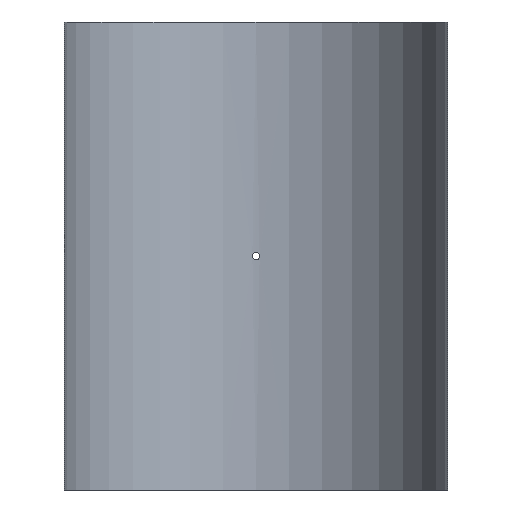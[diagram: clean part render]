
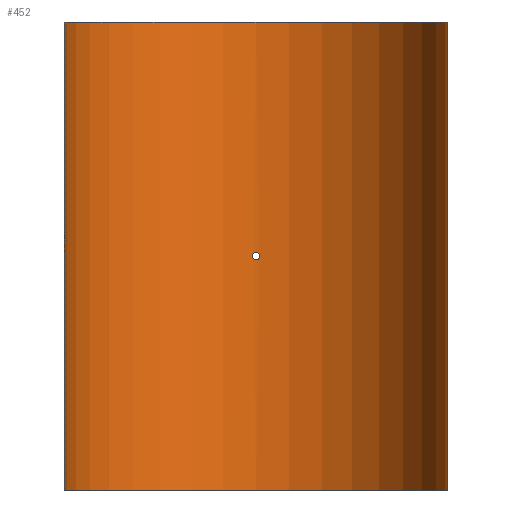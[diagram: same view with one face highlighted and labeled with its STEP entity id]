
A CAD part, front view. The second image highlights one B-rep face of the part: STEP entity #452.
In plain terms, the highlighted cylindrical face has radius 250 mm (diameter 500 mm), a partial arc.
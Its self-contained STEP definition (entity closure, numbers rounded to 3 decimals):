
#19=B_SPLINE_CURVE_WITH_KNOTS('',3,(#796,#797,#798,#799,#800,#801,#802,
#803,#804,#805,#806,#807,#808,#809,#810,#811,#812,#813,#814,#815,#816,#817,
#818,#819,#820,#821,#822,#823,#824,#825,#826,#827,#828,#829),
 .UNSPECIFIED.,.T.,.F.,(4,2,2,2,2,2,2,2,2,2,2,2,2,2,2,2,4),(0.,0.181,
0.362,0.542,0.723,0.904,
1.085,1.266,1.447,1.627,1.808,
1.989,2.17,2.351,2.531,2.712,
2.893),.UNSPECIFIED.);
#43=LINE('',#1097,#62);
#44=LINE('',#1100,#63);
#62=VECTOR('',#661,10.);
#63=VECTOR('',#664,10.);
#76=CYLINDRICAL_SURFACE('',#530,250.);
#88=FACE_BOUND('',#167,.T.);
#127=FACE_OUTER_BOUND('',#166,.T.);
#166=EDGE_LOOP('',(#405,#406,#407,#408));
#167=EDGE_LOOP('',(#409));
#201=CIRCLE('',#529,250.);
#202=CIRCLE('',#531,250.);
#219=VERTEX_POINT('',#794);
#242=VERTEX_POINT('',#1090);
#243=VERTEX_POINT('',#1092);
#244=VERTEX_POINT('',#1096);
#245=VERTEX_POINT('',#1098);
#267=EDGE_CURVE('',#219,#219,#19,.T.);
#299=EDGE_CURVE('',#242,#243,#201,.T.);
#301=EDGE_CURVE('',#244,#242,#43,.T.);
#302=EDGE_CURVE('',#245,#244,#202,.T.);
#303=EDGE_CURVE('',#245,#243,#44,.T.);
#405=ORIENTED_EDGE('',*,*,#301,.F.);
#406=ORIENTED_EDGE('',*,*,#302,.F.);
#407=ORIENTED_EDGE('',*,*,#303,.T.);
#408=ORIENTED_EDGE('',*,*,#299,.F.);
#409=ORIENTED_EDGE('',*,*,#267,.T.);
#452=ADVANCED_FACE('',(#127,#88),#76,.F.);
#529=AXIS2_PLACEMENT_3D('',#1093,#656,#657);
#530=AXIS2_PLACEMENT_3D('',#1095,#659,#660);
#531=AXIS2_PLACEMENT_3D('',#1099,#662,#663);
#656=DIRECTION('center_axis',(0.,0.,1.));
#657=DIRECTION('ref_axis',(1.,0.,0.));
#659=DIRECTION('center_axis',(0.,0.,1.));
#660=DIRECTION('ref_axis',(1.,0.,0.));
#661=DIRECTION('',(0.,0.,-1.));
#662=DIRECTION('center_axis',(0.,0.,-1.));
#663=DIRECTION('ref_axis',(1.,0.,0.));
#664=DIRECTION('',(0.,0.,-1.));
#794=CARTESIAN_POINT('',(4.8,249.954,0.));
#796=CARTESIAN_POINT('Ctrl Pts',(4.8,249.954,0.));
#797=CARTESIAN_POINT('Ctrl Pts',(4.8,249.954,-0.603));
#798=CARTESIAN_POINT('Ctrl Pts',(4.68,249.956,-1.246));
#799=CARTESIAN_POINT('Ctrl Pts',(4.19,249.965,-2.428));
#800=CARTESIAN_POINT('Ctrl Pts',(3.82,249.971,-2.968));
#801=CARTESIAN_POINT('Ctrl Pts',(2.968,249.983,-3.82));
#802=CARTESIAN_POINT('Ctrl Pts',(2.428,249.989,-4.19));
#803=CARTESIAN_POINT('Ctrl Pts',(1.246,249.998,-4.68));
#804=CARTESIAN_POINT('Ctrl Pts',(0.603,250.,-4.8));
#805=CARTESIAN_POINT('Ctrl Pts',(-0.603,250.,-4.8));
#806=CARTESIAN_POINT('Ctrl Pts',(-1.246,249.998,-4.68));
#807=CARTESIAN_POINT('Ctrl Pts',(-2.428,249.989,-4.19));
#808=CARTESIAN_POINT('Ctrl Pts',(-2.968,249.983,-3.82));
#809=CARTESIAN_POINT('Ctrl Pts',(-3.82,249.971,-2.968));
#810=CARTESIAN_POINT('Ctrl Pts',(-4.19,249.965,-2.428));
#811=CARTESIAN_POINT('Ctrl Pts',(-4.68,249.956,-1.246));
#812=CARTESIAN_POINT('Ctrl Pts',(-4.8,249.954,-0.603));
#813=CARTESIAN_POINT('Ctrl Pts',(-4.8,249.954,0.603));
#814=CARTESIAN_POINT('Ctrl Pts',(-4.68,249.956,1.246));
#815=CARTESIAN_POINT('Ctrl Pts',(-4.19,249.965,2.428));
#816=CARTESIAN_POINT('Ctrl Pts',(-3.82,249.971,2.968));
#817=CARTESIAN_POINT('Ctrl Pts',(-2.968,249.983,3.82));
#818=CARTESIAN_POINT('Ctrl Pts',(-2.428,249.989,4.19));
#819=CARTESIAN_POINT('Ctrl Pts',(-1.246,249.998,4.68));
#820=CARTESIAN_POINT('Ctrl Pts',(-0.603,250.,4.8));
#821=CARTESIAN_POINT('Ctrl Pts',(0.603,250.,4.8));
#822=CARTESIAN_POINT('Ctrl Pts',(1.246,249.998,4.68));
#823=CARTESIAN_POINT('Ctrl Pts',(2.428,249.989,4.19));
#824=CARTESIAN_POINT('Ctrl Pts',(2.968,249.983,3.82));
#825=CARTESIAN_POINT('Ctrl Pts',(3.82,249.971,2.968));
#826=CARTESIAN_POINT('Ctrl Pts',(4.19,249.965,2.428));
#827=CARTESIAN_POINT('Ctrl Pts',(4.68,249.956,1.246));
#828=CARTESIAN_POINT('Ctrl Pts',(4.8,249.954,0.603));
#829=CARTESIAN_POINT('Ctrl Pts',(4.8,249.954,0.));
#1090=CARTESIAN_POINT('',(250.,0.,-305.));
#1092=CARTESIAN_POINT('',(-250.,0.,-305.));
#1093=CARTESIAN_POINT('Origin',(0.,0.,
-305.));
#1095=CARTESIAN_POINT('Origin',(0.,0.,
0.));
#1096=CARTESIAN_POINT('',(250.,0.,305.));
#1097=CARTESIAN_POINT('',(250.,0.,0.));
#1098=CARTESIAN_POINT('',(-250.,0.,305.));
#1099=CARTESIAN_POINT('Origin',(0.,0.,
305.));
#1100=CARTESIAN_POINT('',(-250.,0.,0.));
